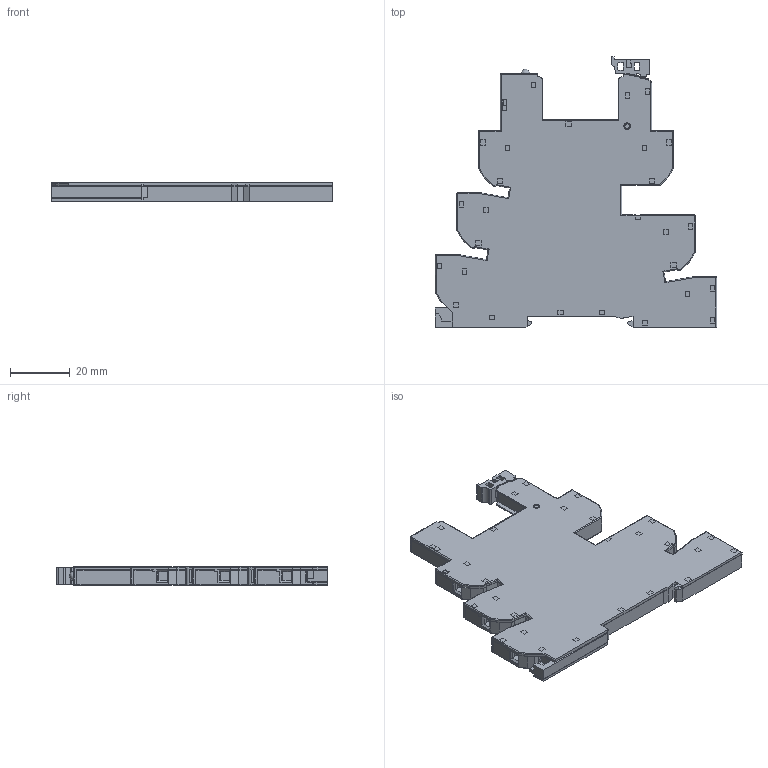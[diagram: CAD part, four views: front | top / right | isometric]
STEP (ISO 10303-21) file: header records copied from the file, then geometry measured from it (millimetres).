
FILE_DESCRIPTION(('STEP AP214'),'2;1');
FILE_NAME('9364_esistente FINITO+senza Tappo.stp','2011-02-02T09:55:13',(''),(''),'2007.1.106','THINKDESIGN','');
FILE_SCHEMA(('AUTOMOTIVE_DESIGN'));
Products named in the file (1): None
Bounding box: 94.25 x 90.7 x 6.2 mm (x, y, z)
Surface area: 17568.8 mm2 (no closed solid volume)
Topology: 0 solids, 0 shells, 1055 faces, 6343 edges, 6325 vertices
Faces by surface type: plane 863, cylinder 167, bspline 25
Full cylindrical faces by diameter (mm): 2 x2, 2.2 x2, 3 x1, 3.9 x6
Entity records: 61755 total; most frequent: CARTESIAN_POINT 15784, DIRECTION 8177, COMPOSITE_CURVE_SEGMENT 6325, TRIMMED_CURVE 5854, VECTOR 5591, LINE 5591, AXIS2_PLACEMENT_3D 1293, OUTER_BOUNDARY_CURVE 1055
